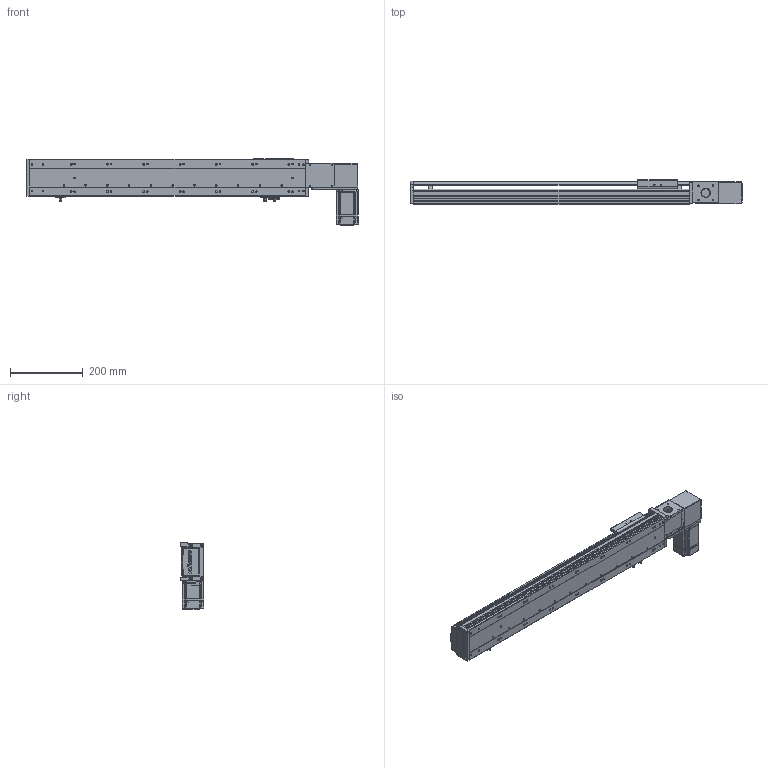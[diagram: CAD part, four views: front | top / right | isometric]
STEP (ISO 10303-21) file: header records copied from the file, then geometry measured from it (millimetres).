
FILE_DESCRIPTION (( 'STEP AP203' ), '1' );
FILE_NAME ('RY100-T-300-LK.SLDASM_550.step', '2024-04-25T05:36:54', ( '盈信电脑' ), ( '东莞市道滘镇水果街19号' ), 'SwSTEP 2.0', 'SolidWorks 2016', '' );
FILE_SCHEMA (( 'CONFIG_CONTROL_DESIGN' ));
Length unit declared in the file: millimetre
Products named in the file (13): RY100-T-300-LK.SLDASM_550; RY100-T翋肮祭謫裔啣2; 覜茼ん672; RY100-T肮祭謫翋盓傅釱; RY100-T-300-RK倰第奻裔_550; RY100綴裔啣; RY100-T左右折电机安装板; RY80-T肮祭謫俋欶; RY100-T肮祭謫臏賑輸; 滅袉蝶18-10; RY100俋离覜茼え; 1; RY100-T-300-RK倰第菁釱_550
Assembly tree (16 placements, depth 2):
  RY100-T-300-LK.SLDASM_550
    RY100-T-300-RK倰第菁釱_550
    RY100-T-300-RK倰第奻裔_550
    RY100-T肮祭謫臏賑輸
    RY100綴裔啣
    覜茼ん672  x3
    RY100俋离覜茼え
    RY100-T肮祭謫翋盓傅釱
    滅袉蝶18-10  x2
    RY100-T翋肮祭謫裔啣2  x2
    RY80-T肮祭謫俋欶
    RY100-T左右折电机安装板
    1
Bounding box: 914 x 66 x 182.5 mm (x, y, z)
Volume: 1892656.3 mm3; surface area: 753220.4 mm2
Topology: 16 solids, 16 shells, 2134 faces, 5949 edges, 3865 vertices
Faces by surface type: plane 1174, cylinder 751, cone 131, bspline 78
Entity records: 67967 total; most frequent: CARTESIAN_POINT 16577, ORIENTED_EDGE 10634, DIRECTION 10061, EDGE_CURVE 5317, VERTEX_POINT 3501, LINE 3469, VECTOR 3469, AXIS2_PLACEMENT_3D 3296
